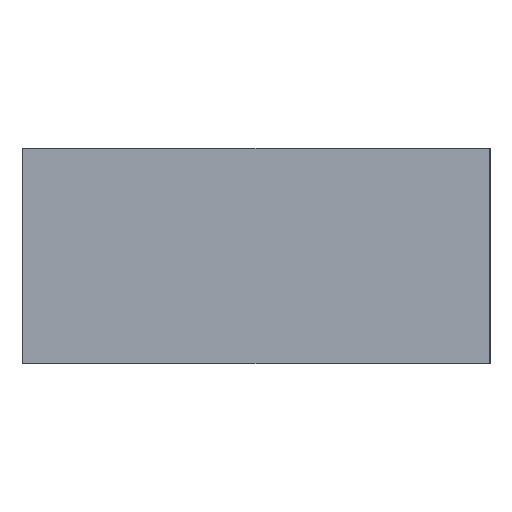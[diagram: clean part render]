
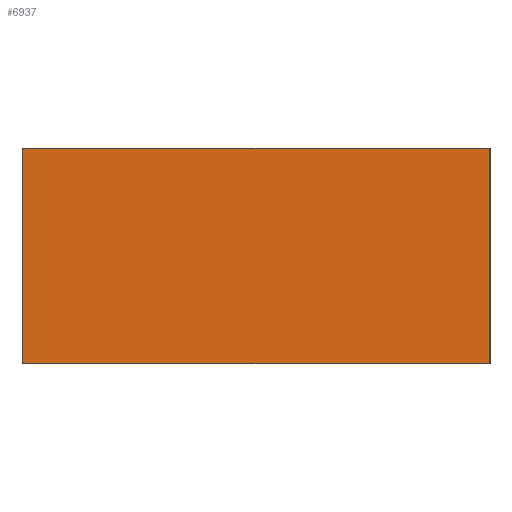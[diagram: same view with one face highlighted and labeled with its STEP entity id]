
A CAD part, front view. The second image highlights one B-rep face of the part: STEP entity #6937.
In plain terms, the highlighted planar face has unit normal (0, -1, 0).
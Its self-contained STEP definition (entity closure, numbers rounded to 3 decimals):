
#197 = VERTEX_POINT ( 'NONE', #1621 ) ;
#223 = EDGE_CURVE ( 'NONE', #197, #351, #1688, .T. ) ;
#351 = VERTEX_POINT ( 'NONE', #2134 ) ;
#1621 = CARTESIAN_POINT ( 'NONE',  ( -162., -0.005, 150. ) ) ;
#1688 = LINE ( 'NONE', #1689, #1690 ) ;
#1689 = CARTESIAN_POINT ( 'NONE',  ( -162., -0.005, 150. ) ) ;
#1690 = VECTOR ( 'NONE', #1691, 1000. ) ;
#1691 = DIRECTION ( 'NONE',  ( 0., 0., -1. ) ) ;
#2134 = CARTESIAN_POINT ( 'NONE',  ( -162., -0.005, 0. ) ) ;
#3769 = LINE ( 'NONE', #3771, #3772 ) ;
#3771 = CARTESIAN_POINT ( 'NONE',  ( 162., -0.005, 150. ) ) ;
#3772 = VECTOR ( 'NONE', #3773, 1000. ) ;
#3773 = DIRECTION ( 'NONE',  ( 1., 0., 0. ) ) ;
#4277 = CARTESIAN_POINT ( 'NONE',  ( 162., -0.005, 150. ) ) ;
#4382 = LINE ( 'NONE', #4383, #4384 ) ;
#4383 = CARTESIAN_POINT ( 'NONE',  ( 162., -0.005, 150. ) ) ;
#4384 = VECTOR ( 'NONE', #4385, 1000. ) ;
#4385 = DIRECTION ( 'NONE',  ( 0., 0., -1. ) ) ;
#4846 = CARTESIAN_POINT ( 'NONE',  ( 162., -0.005, 0. ) ) ;
#4993 = LINE ( 'NONE', #4994, #4995 ) ;
#4994 = CARTESIAN_POINT ( 'NONE',  ( 162., -0.005, 0. ) ) ;
#4995 = VECTOR ( 'NONE', #4996, 1000. ) ;
#4996 = DIRECTION ( 'NONE',  ( 1., 0., 0. ) ) ;
#5612 = FACE_OUTER_BOUND ( 'NONE', #6900, .T. ) ;
#5613 = PLANE ( 'NONE',  #5614 ) ;
#5614 = AXIS2_PLACEMENT_3D ( 'NONE', #5615, #5616, #5617 ) ;
#5615 = CARTESIAN_POINT ( 'NONE',  ( 162., -0.005, 150. ) ) ;
#5616 = DIRECTION ( 'NONE',  ( 0., 1., 0. ) ) ;
#5617 = DIRECTION ( 'NONE',  ( 0., 0., 1. ) ) ;
#6341 = ORIENTED_EDGE ( 'NONE', *, *, #223, .T. ) ;
#6411 = EDGE_CURVE ( 'NONE', #197, #6528, #3769, .T. ) ;
#6466 = ORIENTED_EDGE ( 'NONE', *, *, #6411, .F. ) ;
#6528 = VERTEX_POINT ( 'NONE', #4277 ) ;
#6570 = EDGE_CURVE ( 'NONE', #6528, #6709, #4382, .T. ) ;
#6629 = ORIENTED_EDGE ( 'NONE', *, *, #6570, .F. ) ;
#6709 = VERTEX_POINT ( 'NONE', #4846 ) ;
#6748 = EDGE_CURVE ( 'NONE', #351, #6709, #4993, .T. ) ;
#6798 = ORIENTED_EDGE ( 'NONE', *, *, #6748, .T. ) ;
#6900 = EDGE_LOOP ( 'NONE', ( #6798, #6629, #6466, #6341 ) ) ;
#6937 = ADVANCED_FACE ( 'NONE', ( #5612 ), #5613, .F. ) ;
